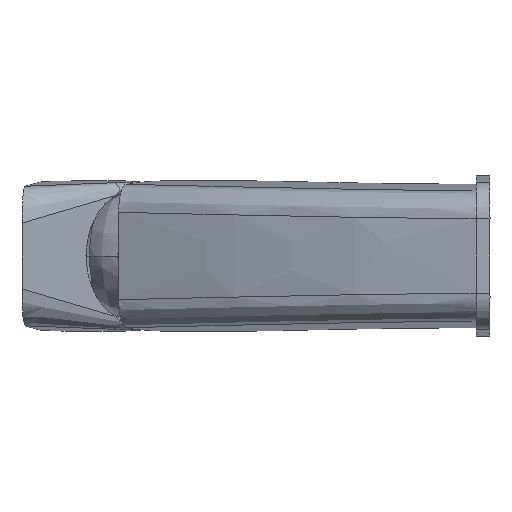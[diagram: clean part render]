
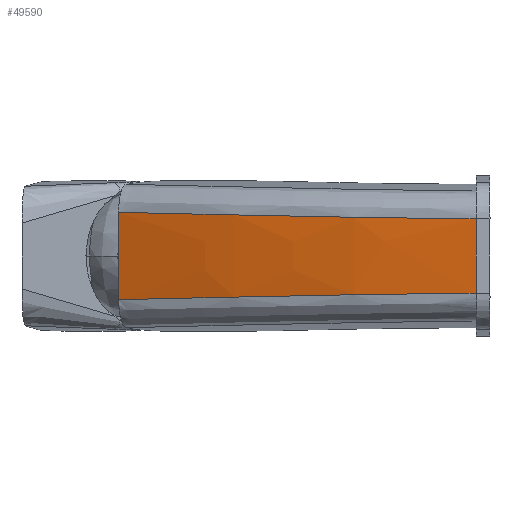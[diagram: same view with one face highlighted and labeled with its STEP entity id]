
A CAD part, left-side view. The second image highlights one B-rep face of the part: STEP entity #49590.
In plain terms, the highlighted free-form (B-spline) face has degree [3, 3] with [7, 4] control points.
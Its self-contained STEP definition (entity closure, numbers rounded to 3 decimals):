
#27210=CARTESIAN_POINT('',(-48.579,-93.303,
-12.49));
#27220=DIRECTION('',(0.,0.,1.));
#27230=VECTOR('',#27220,1.);
#27240=LINE('',#27210,#27230);
#27250=CARTESIAN_POINT('',(-48.579,-93.303,
-10.601));
#27260=VERTEX_POINT('',#27250);
#27270=CARTESIAN_POINT('',(-48.579,-93.303,
10.601));
#27280=VERTEX_POINT('',#27270);
#27290=EDGE_CURVE('',#27260,#27280,#27240,.T.);
#43560=CARTESIAN_POINT('',(-19.443,8.954,
-12.49));
#43570=CARTESIAN_POINT('',(-21.996,3.388,
-12.367));
#43580=CARTESIAN_POINT('',(-27.318,-9.065,
-12.086));
#43590=CARTESIAN_POINT('',(-34.362,-28.617,
-11.652));
#43600=CARTESIAN_POINT('',(-40.644,-50.218,
-11.217));
#43610=CARTESIAN_POINT('',(-45.423,-71.749,
-10.856));
#43620=CARTESIAN_POINT('',(-47.71,-86.386,
-10.672));
#43630=CARTESIAN_POINT('',(-48.579,-93.303,
-10.601));
#43640=B_SPLINE_CURVE_WITH_KNOTS('',3,(#43560,#43570,#43580,#43590,
#43600,#43610,#43620,#43630),.UNSPECIFIED.,.F.,.F.,(4,1,1,1,1,4),(
1.269,19.222,40.963,62.174,
85.149,105.587),.UNSPECIFIED.);
#43650=CARTESIAN_POINT('',(-19.443,8.954,
-12.49));
#43660=VERTEX_POINT('',#43650);
#43670=EDGE_CURVE('',#43660,#27260,#43640,.T.);
#47740=CARTESIAN_POINT('',(-19.443,8.954,
12.49));
#47750=VERTEX_POINT('',#47740);
#47780=CARTESIAN_POINT('',(-19.443,8.954,
-12.49));
#47790=DIRECTION('',(0.,0.,1.));
#47800=VECTOR('',#47790,1.);
#47810=LINE('',#47780,#47800);
#47820=EDGE_CURVE('',#43660,#47750,#47810,.T.);
#49140=CARTESIAN_POINT('',(-19.443,8.954,
-12.49));
#49150=CARTESIAN_POINT('',(-23.151,0.871,
-12.49));
#49160=CARTESIAN_POINT('',(-29.953,-15.585,
-12.49));
#49170=CARTESIAN_POINT('',(-38.243,-40.969,
-12.49));
#49180=CARTESIAN_POINT('',(-44.577,-66.911,
-12.49));
#49190=CARTESIAN_POINT('',(-47.47,-84.48,
-12.49));
#49200=CARTESIAN_POINT('',(-48.579,-93.303,
-12.49));
#49210=CARTESIAN_POINT('',(-19.443,8.954,
-4.163));
#49220=CARTESIAN_POINT('',(-23.151,0.871,
-4.163));
#49230=CARTESIAN_POINT('',(-29.953,-15.585,
-4.163));
#49240=CARTESIAN_POINT('',(-38.243,-40.969,
-4.163));
#49250=CARTESIAN_POINT('',(-44.577,-66.911,
-4.163));
#49260=CARTESIAN_POINT('',(-47.47,-84.48,
-4.163));
#49270=CARTESIAN_POINT('',(-48.579,-93.303,
-4.163));
#49280=CARTESIAN_POINT('',(-19.443,8.954,
4.163));
#49290=CARTESIAN_POINT('',(-23.151,0.871,
4.163));
#49300=CARTESIAN_POINT('',(-29.953,-15.585,
4.163));
#49310=CARTESIAN_POINT('',(-38.243,-40.969,
4.163));
#49320=CARTESIAN_POINT('',(-44.577,-66.911,
4.163));
#49330=CARTESIAN_POINT('',(-47.47,-84.48,
4.163));
#49340=CARTESIAN_POINT('',(-48.579,-93.303,
4.163));
#49350=CARTESIAN_POINT('',(-19.443,8.954,
12.49));
#49360=CARTESIAN_POINT('',(-23.151,0.871,
12.49));
#49370=CARTESIAN_POINT('',(-29.953,-15.585,
12.49));
#49380=CARTESIAN_POINT('',(-38.243,-40.969,
12.49));
#49390=CARTESIAN_POINT('',(-44.577,-66.911,
12.49));
#49400=CARTESIAN_POINT('',(-47.47,-84.48,
12.49));
#49410=CARTESIAN_POINT('',(-48.579,-93.303,
12.49));
#49420=B_SPLINE_SURFACE_WITH_KNOTS('',3,3,((#49140,#49210,#49280,#49350)
,(#49150,#49220,#49290,#49360),(#49160,#49230,#49300,#49370),(#49170,
#49240,#49310,#49380),(#49180,#49250,#49320,#49390),(#49190,#49260,
#49330,#49400),(#49200,#49270,#49340,#49410)),.UNSPECIFIED.,.F.,.F.,.F.,
(4,1,1,1,4),(4,4),(0.,26.679,53.357,80.036
,106.714),(0.,24.98),.UNSPECIFIED.);
#49430=ORIENTED_EDGE('',*,*,#27290,.T.);
#49440=ORIENTED_EDGE('',*,*,#43670,.T.);
#49450=ORIENTED_EDGE('',*,*,#47820,.F.);
#49460=CARTESIAN_POINT('',(-48.579,-93.303,
10.601));
#49470=CARTESIAN_POINT('',(-47.744,-86.663,
10.669));
#49480=CARTESIAN_POINT('',(-45.559,-72.563,
10.845));
#49490=CARTESIAN_POINT('',(-40.954,-51.464,
11.195));
#49500=CARTESIAN_POINT('',(-34.714,-29.659,
11.63));
#49510=CARTESIAN_POINT('',(-27.532,-9.575,
12.074));
#49520=CARTESIAN_POINT('',(-22.036,3.301,
12.365));
#49530=CARTESIAN_POINT('',(-19.443,8.954,
12.49));
#49540=B_SPLINE_CURVE_WITH_KNOTS('',3,(#49460,#49470,#49480,#49490,
#49500,#49510,#49520,#49530),.UNSPECIFIED.,.F.,.F.,(4,1,1,1,1,4),(0.,
19.621,41.812,63.283,86.085,
104.318),.UNSPECIFIED.);
#49550=EDGE_CURVE('',#27280,#47750,#49540,.T.);
#49560=ORIENTED_EDGE('',*,*,#49550,.T.);
#49570=EDGE_LOOP('',(#49560,#49450,#49440,#49430));
#49580=FACE_OUTER_BOUND('',#49570,.T.);
#49590=ADVANCED_FACE('',(#49580),#49420,.T.);
